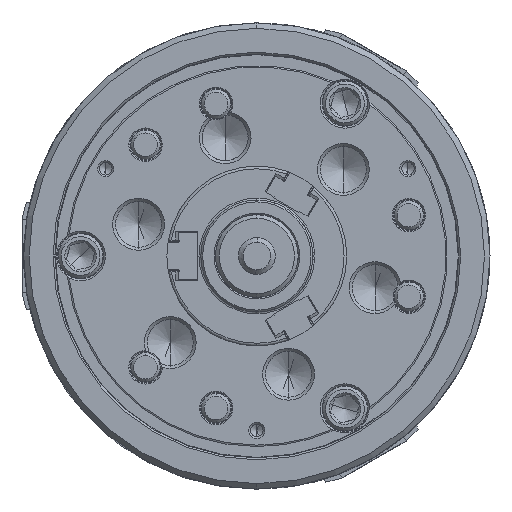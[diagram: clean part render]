
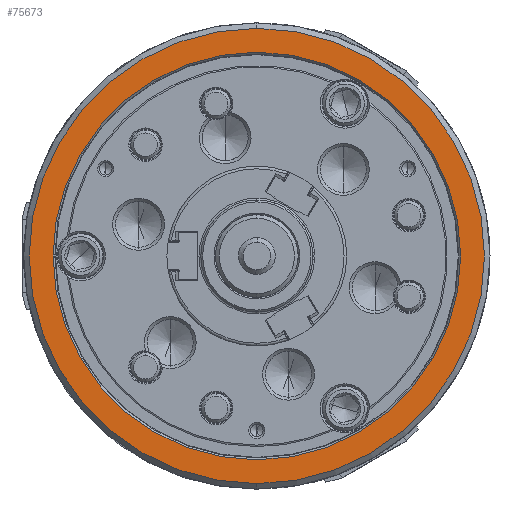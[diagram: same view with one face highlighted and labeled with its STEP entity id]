
A CAD part, left-side view. The second image highlights one B-rep face of the part: STEP entity #75673.
In plain terms, the highlighted planar face has unit normal (-1, 0, 0).
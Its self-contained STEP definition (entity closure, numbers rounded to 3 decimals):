
#222 = FACE_BOUND ( 'NONE', #87375, .T. ) ;
#3667 = EDGE_CURVE ( 'NONE', #100455, #17577, #63385, .T. ) ;
#8724 = CARTESIAN_POINT ( 'NONE',  ( -89., 0., 111. ) ) ;
#9115 = CARTESIAN_POINT ( 'NONE',  ( -89., 0., -111. ) ) ;
#9796 = VERTEX_POINT ( 'NONE', #8724 ) ;
#9911 = FACE_OUTER_BOUND ( 'NONE', #91950, .T. ) ;
#14116 = CIRCLE ( 'NONE', #25785, 124. ) ;
#17577 = VERTEX_POINT ( 'NONE', #57232 ) ;
#20522 = DIRECTION ( 'NONE',  ( 0., 0., -1. ) ) ;
#25785 = AXIS2_PLACEMENT_3D ( 'NONE', #34513, #118176, #45967 ) ;
#28132 = PLANE ( 'NONE',  #116113 ) ;
#29239 = EDGE_CURVE ( 'NONE', #9796, #67216, #78524, .T. ) ;
#29334 = DIRECTION ( 'NONE',  ( 0., 0., -1. ) ) ;
#34513 = CARTESIAN_POINT ( 'NONE',  ( -89., 0., 0. ) ) ;
#35902 = AXIS2_PLACEMENT_3D ( 'NONE', #95184, #39976, #48516 ) ;
#39976 = DIRECTION ( 'NONE',  ( 1., 0., 0. ) ) ;
#42049 = AXIS2_PLACEMENT_3D ( 'NONE', #84263, #84875, #20522 ) ;
#45967 = DIRECTION ( 'NONE',  ( 0., 0., -1. ) ) ;
#46661 = DIRECTION ( 'NONE',  ( 0., 0., -1. ) ) ;
#47677 = ORIENTED_EDGE ( 'NONE', *, *, #3667, .F. ) ;
#48516 = DIRECTION ( 'NONE',  ( 0., 0., -1. ) ) ;
#57232 = CARTESIAN_POINT ( 'NONE',  ( -89., 0., 124. ) ) ;
#58881 = EDGE_CURVE ( 'NONE', #17577, #100455, #14116, .T. ) ;
#63385 = CIRCLE ( 'NONE', #42049, 124. ) ;
#67216 = VERTEX_POINT ( 'NONE', #9115 ) ;
#67458 = ORIENTED_EDGE ( 'NONE', *, *, #73711, .T. ) ;
#73156 = CIRCLE ( 'NONE', #104039, 111. ) ;
#73711 = EDGE_CURVE ( 'NONE', #67216, #9796, #73156, .T. ) ;
#74299 = ORIENTED_EDGE ( 'NONE', *, *, #29239, .T. ) ;
#75477 = CARTESIAN_POINT ( 'NONE',  ( -89., -124., 0. ) ) ;
#75673 = ADVANCED_FACE ( 'NONE', ( #9911, #222 ), #28132, .F. ) ;
#78524 = CIRCLE ( 'NONE', #35902, 111. ) ;
#83428 = CARTESIAN_POINT ( 'NONE',  ( -89., 0., -124. ) ) ;
#84263 = CARTESIAN_POINT ( 'NONE',  ( -89., 0., 0. ) ) ;
#84875 = DIRECTION ( 'NONE',  ( 1., 0., 0. ) ) ;
#87375 = EDGE_LOOP ( 'NONE', ( #74299, #67458 ) ) ;
#91950 = EDGE_LOOP ( 'NONE', ( #47677, #93006 ) ) ;
#93006 = ORIENTED_EDGE ( 'NONE', *, *, #58881, .F. ) ;
#95184 = CARTESIAN_POINT ( 'NONE',  ( -89., 0., 0. ) ) ;
#100455 = VERTEX_POINT ( 'NONE', #83428 ) ;
#103006 = CARTESIAN_POINT ( 'NONE',  ( -89., 0., 0. ) ) ;
#104039 = AXIS2_PLACEMENT_3D ( 'NONE', #103006, #112146, #46661 ) ;
#112146 = DIRECTION ( 'NONE',  ( 1., 0., 0. ) ) ;
#112413 = DIRECTION ( 'NONE',  ( 1., 0., 0. ) ) ;
#116113 = AXIS2_PLACEMENT_3D ( 'NONE', #75477, #112413, #29334 ) ;
#118176 = DIRECTION ( 'NONE',  ( 1., 0., 0. ) ) ;
